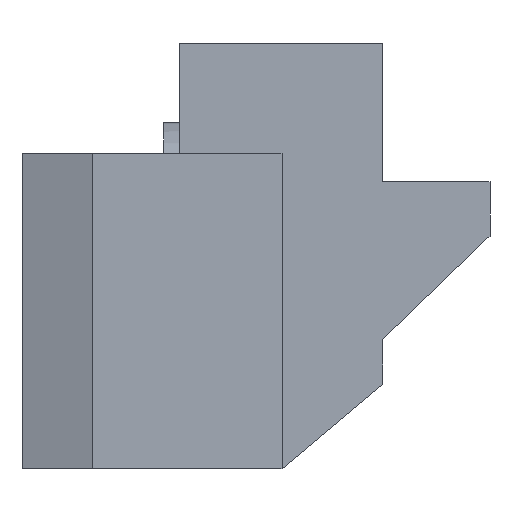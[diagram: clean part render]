
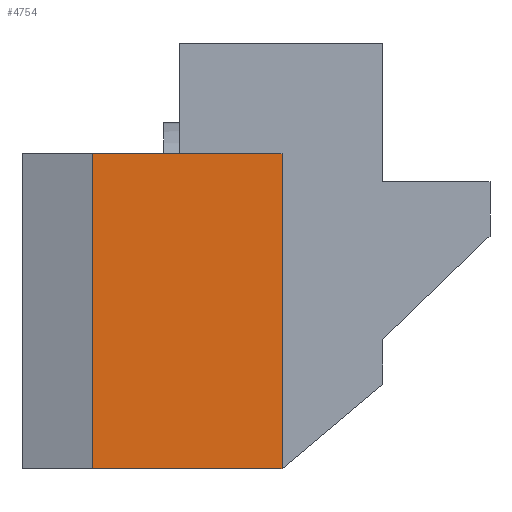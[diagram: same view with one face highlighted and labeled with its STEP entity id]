
A CAD part, front view. The second image highlights one B-rep face of the part: STEP entity #4754.
In plain terms, the highlighted planar face has unit normal (0, -1, 0).
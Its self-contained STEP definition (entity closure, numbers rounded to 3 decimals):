
#32 = PLANE('',#33);
#33 = AXIS2_PLACEMENT_3D('',#34,#35,#36);
#34 = CARTESIAN_POINT('',(23.25,-114.1,93.5));
#35 = DIRECTION('',(1.,0.,0.));
#36 = DIRECTION('',(0.,0.,1.));
#85 = VERTEX_POINT('',#86);
#86 = CARTESIAN_POINT('',(23.25,-107.214,93.5));
#100 = PLANE('',#101);
#101 = AXIS2_PLACEMENT_3D('',#102,#103,#104);
#102 = CARTESIAN_POINT('',(23.25,-114.1,93.5));
#103 = DIRECTION('',(0.,0.,1.));
#104 = DIRECTION('',(1.,0.,0.));
#112 = EDGE_CURVE('',#85,#113,#115,.T.);
#113 = VERTEX_POINT('',#114);
#114 = CARTESIAN_POINT('',(23.25,-107.214,103.5));
#115 = SURFACE_CURVE('',#116,(#120,#127),.PCURVE_S1.);
#116 = LINE('',#117,#118);
#117 = CARTESIAN_POINT('',(23.25,-107.214,93.5));
#118 = VECTOR('',#119,1.);
#119 = DIRECTION('',(0.,0.,1.));
#120 = PCURVE('',#32,#121);
#121 = DEFINITIONAL_REPRESENTATION('',(#122),#126);
#122 = LINE('',#123,#124);
#123 = CARTESIAN_POINT('',(0.,-6.886));
#124 = VECTOR('',#125,1.);
#125 = DIRECTION('',(1.,0.));
#126 = ( GEOMETRIC_REPRESENTATION_CONTEXT(2) 
PARAMETRIC_REPRESENTATION_CONTEXT() REPRESENTATION_CONTEXT('2D SPACE',''
  ) );
#127 = PCURVE('',#128,#133);
#128 = PLANE('',#129);
#129 = AXIS2_PLACEMENT_3D('',#130,#131,#132);
#130 = CARTESIAN_POINT('',(23.25,-107.214,93.5));
#131 = DIRECTION('',(0.,-1.,0.));
#132 = DIRECTION('',(-1.,0.,0.));
#133 = DEFINITIONAL_REPRESENTATION('',(#134),#138);
#134 = LINE('',#135,#136);
#135 = CARTESIAN_POINT('',(0.,0.));
#136 = VECTOR('',#137,1.);
#137 = DIRECTION('',(0.,-1.));
#138 = ( GEOMETRIC_REPRESENTATION_CONTEXT(2) 
PARAMETRIC_REPRESENTATION_CONTEXT() REPRESENTATION_CONTEXT('2D SPACE',''
  ) );
#154 = PLANE('',#155);
#155 = AXIS2_PLACEMENT_3D('',#156,#157,#158);
#156 = CARTESIAN_POINT('',(23.25,-114.1,103.5));
#157 = DIRECTION('',(0.,0.,1.));
#158 = DIRECTION('',(1.,0.,0.));
#4707 = VERTEX_POINT('',#4708);
#4708 = CARTESIAN_POINT('',(17.25,-107.214,103.5));
#4722 = PLANE('',#4723);
#4723 = AXIS2_PLACEMENT_3D('',#4724,#4725,#4726);
#4724 = CARTESIAN_POINT('',(17.25,-107.214,93.5));
#4725 = DIRECTION('',(-1.,0.,0.));
#4726 = DIRECTION('',(0.,1.,0.));
#4734 = EDGE_CURVE('',#113,#4707,#4735,.T.);
#4735 = SURFACE_CURVE('',#4736,(#4740,#4747),.PCURVE_S1.);
#4736 = LINE('',#4737,#4738);
#4737 = CARTESIAN_POINT('',(23.25,-107.214,103.5));
#4738 = VECTOR('',#4739,1.);
#4739 = DIRECTION('',(-1.,0.,0.));
#4740 = PCURVE('',#154,#4741);
#4741 = DEFINITIONAL_REPRESENTATION('',(#4742),#4746);
#4742 = LINE('',#4743,#4744);
#4743 = CARTESIAN_POINT('',(0.,6.886));
#4744 = VECTOR('',#4745,1.);
#4745 = DIRECTION('',(-1.,0.));
#4746 = ( GEOMETRIC_REPRESENTATION_CONTEXT(2) 
PARAMETRIC_REPRESENTATION_CONTEXT() REPRESENTATION_CONTEXT('2D SPACE',''
  ) );
#4747 = PCURVE('',#128,#4748);
#4748 = DEFINITIONAL_REPRESENTATION('',(#4749),#4753);
#4749 = LINE('',#4750,#4751);
#4750 = CARTESIAN_POINT('',(0.,-10.));
#4751 = VECTOR('',#4752,1.);
#4752 = DIRECTION('',(1.,0.));
#4753 = ( GEOMETRIC_REPRESENTATION_CONTEXT(2) 
PARAMETRIC_REPRESENTATION_CONTEXT() REPRESENTATION_CONTEXT('2D SPACE',''
  ) );
#4754 = ADVANCED_FACE('',(#4755),#128,.T.);
#4755 = FACE_BOUND('',#4756,.T.);
#4756 = EDGE_LOOP('',(#4757,#4758,#4759,#4782));
#4757 = ORIENTED_EDGE('',*,*,#112,.T.);
#4758 = ORIENTED_EDGE('',*,*,#4734,.T.);
#4759 = ORIENTED_EDGE('',*,*,#4760,.F.);
#4760 = EDGE_CURVE('',#4761,#4707,#4763,.T.);
#4761 = VERTEX_POINT('',#4762);
#4762 = CARTESIAN_POINT('',(17.25,-107.214,93.5));
#4763 = SURFACE_CURVE('',#4764,(#4768,#4775),.PCURVE_S1.);
#4764 = LINE('',#4765,#4766);
#4765 = CARTESIAN_POINT('',(17.25,-107.214,93.5));
#4766 = VECTOR('',#4767,1.);
#4767 = DIRECTION('',(0.,0.,1.));
#4768 = PCURVE('',#128,#4769);
#4769 = DEFINITIONAL_REPRESENTATION('',(#4770),#4774);
#4770 = LINE('',#4771,#4772);
#4771 = CARTESIAN_POINT('',(6.,0.));
#4772 = VECTOR('',#4773,1.);
#4773 = DIRECTION('',(0.,-1.));
#4774 = ( GEOMETRIC_REPRESENTATION_CONTEXT(2) 
PARAMETRIC_REPRESENTATION_CONTEXT() REPRESENTATION_CONTEXT('2D SPACE',''
  ) );
#4775 = PCURVE('',#4722,#4776);
#4776 = DEFINITIONAL_REPRESENTATION('',(#4777),#4781);
#4777 = LINE('',#4778,#4779);
#4778 = CARTESIAN_POINT('',(0.,0.));
#4779 = VECTOR('',#4780,1.);
#4780 = DIRECTION('',(0.,-1.));
#4781 = ( GEOMETRIC_REPRESENTATION_CONTEXT(2) 
PARAMETRIC_REPRESENTATION_CONTEXT() REPRESENTATION_CONTEXT('2D SPACE',''
  ) );
#4782 = ORIENTED_EDGE('',*,*,#4783,.F.);
#4783 = EDGE_CURVE('',#85,#4761,#4784,.T.);
#4784 = SURFACE_CURVE('',#4785,(#4789,#4796),.PCURVE_S1.);
#4785 = LINE('',#4786,#4787);
#4786 = CARTESIAN_POINT('',(23.25,-107.214,93.5));
#4787 = VECTOR('',#4788,1.);
#4788 = DIRECTION('',(-1.,0.,0.));
#4789 = PCURVE('',#128,#4790);
#4790 = DEFINITIONAL_REPRESENTATION('',(#4791),#4795);
#4791 = LINE('',#4792,#4793);
#4792 = CARTESIAN_POINT('',(0.,0.));
#4793 = VECTOR('',#4794,1.);
#4794 = DIRECTION('',(1.,0.));
#4795 = ( GEOMETRIC_REPRESENTATION_CONTEXT(2) 
PARAMETRIC_REPRESENTATION_CONTEXT() REPRESENTATION_CONTEXT('2D SPACE',''
  ) );
#4796 = PCURVE('',#100,#4797);
#4797 = DEFINITIONAL_REPRESENTATION('',(#4798),#4802);
#4798 = LINE('',#4799,#4800);
#4799 = CARTESIAN_POINT('',(0.,6.886));
#4800 = VECTOR('',#4801,1.);
#4801 = DIRECTION('',(-1.,0.));
#4802 = ( GEOMETRIC_REPRESENTATION_CONTEXT(2) 
PARAMETRIC_REPRESENTATION_CONTEXT() REPRESENTATION_CONTEXT('2D SPACE',''
  ) );
